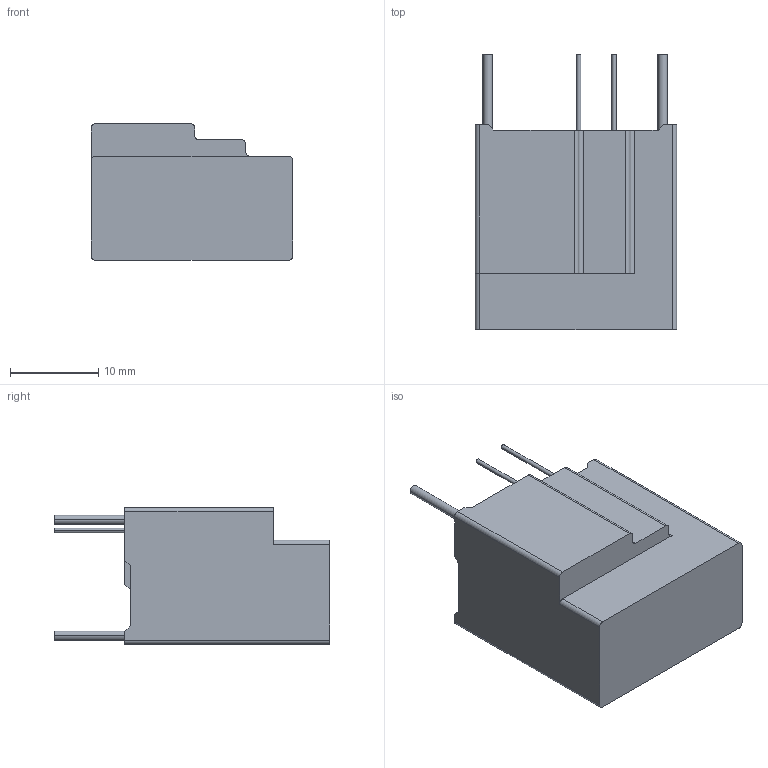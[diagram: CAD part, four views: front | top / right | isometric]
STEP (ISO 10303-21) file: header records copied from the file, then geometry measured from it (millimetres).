
FILE_DESCRIPTION((''),'2;1');
FILE_NAME('20S4701-IT-20200616','2020-06-19T',('set'),(''),'PRO/ENGINEER BY PARAMETRIC TECHNOLOGY CORPORATION, 2012310','PRO/ENGINEER BY PARAMETRIC TECHNOLOGY CORPORATION, 2012310','');
FILE_SCHEMA(('CONFIG_CONTROL_DESIGN','SHAPE_APPEARANCE_LAYERS_GROUPS'));
Length unit declared in the file: millimetre
Products named in the file (1): 20S4701-IT-20200616
Bounding box: 22.8 x 31.2 x 15.5 mm (x, y, z)
Volume: 1716.8 mm3; surface area: 4457.2 mm2
Topology: 1 solids, 2 shells, 107 faces, 297 edges, 198 vertices
Faces by surface type: plane 79, cylinder 28
Entity records: 3456 total; most frequent: CARTESIAN_POINT 602, ORIENTED_EDGE 594, DIRECTION 567, EDGE_CURVE 297, VECTOR 241, LINE 241, VERTEX_POINT 198, AXIS2_PLACEMENT_3D 163
